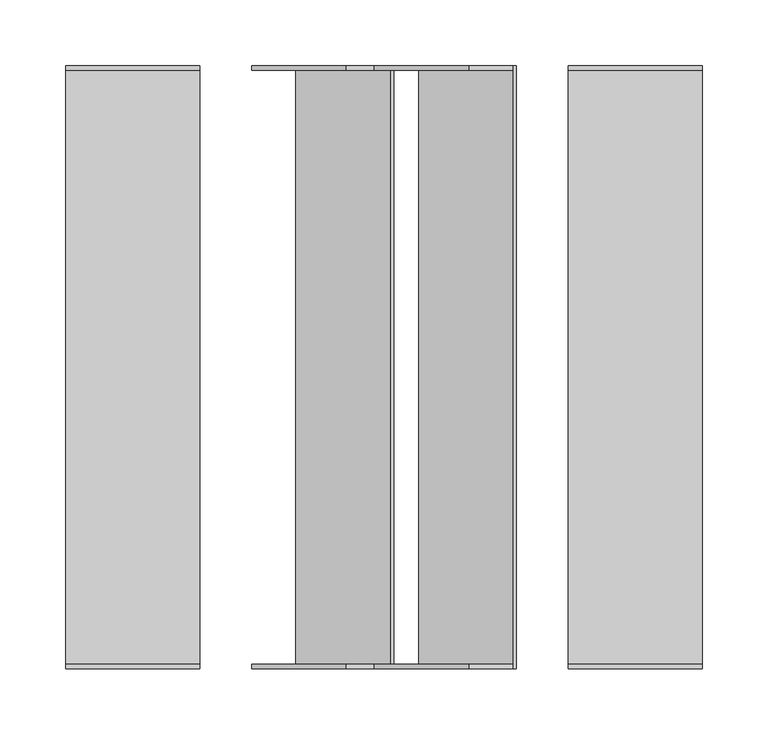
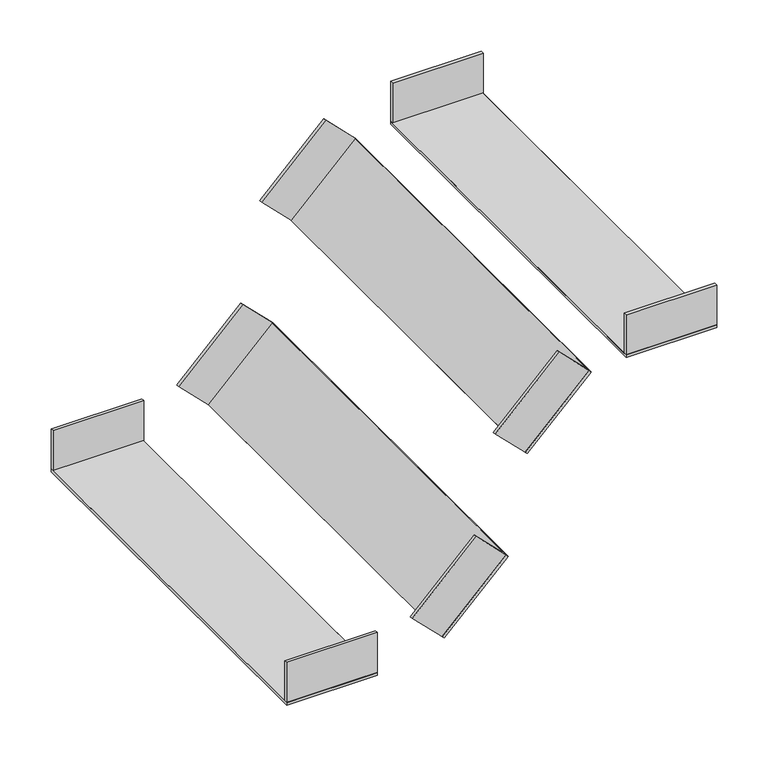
"""IFC4 building model written with IfcOpenShell, lengths in millimetres: cable carrier fitting geometry, Offset-Vertical-Cablofil-Wire_Mesh_Cable_Tray-Cablobend : Cablobend."""

from ifc_helpers import new_model, si_unit, frame, origin, place, context, project, spatial, polyline, outline, extrude, source, transform, mapped, element, save


def cable_carrier_fitting_cd092c5d(model_context):
    return source(origin(), model_context, "Body", "SweptSolid", [
        extrude(outline(polyline([(3.175, 0.0), (3.175, -457.2), (0.0, -457.2), (0.0, 0.0), (3.175, 0.0)])), frame((-10.648391, -228.6, 178.9517966), z_axis=(0.707106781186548, 0.0, 0.707106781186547), x_axis=(-0.707106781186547, 0.0, 0.707106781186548)), (0.0, 0.0, 1.0), 101.6),
        extrude(outline(polyline([(50.8, 0.0), (50.8, -3.175), (3.175, -3.175), (3.175, -454.025), (50.8, -454.025), (50.8, -457.2), (0.0, -457.2), (0.0, 0.0), (50.8, 0.0)])), frame((-10.648391, -228.6, 178.9517966), z_axis=(0.707106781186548, 0.0, 0.707106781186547), x_axis=(-0.707106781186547, 0.0, 0.707106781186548)), (0.0, 0.0, 1.0), 101.6),
        extrude(outline(polyline([(3.175, 0.0), (3.175, -457.2), (0.0, -457.2), (0.0, 0.0), (3.175, 0.0)])), frame((-103.7817244, -228.6, -7.3148701), z_axis=(0.707106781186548, 0.0, 0.707106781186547), x_axis=(-0.707106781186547, 0.0, 0.707106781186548)), (0.0, 0.0, 1.0), 101.6),
        extrude(outline(polyline([(50.8, 0.0), (50.8, -3.175), (3.175, -3.175), (3.175, -454.025), (50.8, -454.025), (50.8, -457.2), (0.0, -457.2), (0.0, 0.0), (50.8, 0.0)])), frame((-103.7817244, -228.6, -7.3148701), z_axis=(0.707106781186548, 0.0, 0.707106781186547), x_axis=(-0.707106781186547, 0.0, 0.707106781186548)), (0.0, 0.0, 1.0), 101.6),
        extrude(outline(polyline([(202.0454545, 228.6), (202.0454545, -228.6), (100.4454545, -228.6), (100.4454545, 228.6), (202.0454545, 228.6)])), frame((0.0, 0.0, 254.0), z_axis=(0.0, 0.0, 1.0), x_axis=(1.0, 0.0, 0.0)), (0.0, 0.0, 1.0), 3.175),
        extrude(outline(polyline([(-228.6, 304.8), (-225.425, 304.8), (-225.425, 257.175), (225.425, 257.175), (225.425, 304.8), (228.6, 304.8), (228.6, 254.0), (-228.6, 254.0), (-228.6, 304.8)])), frame((100.4454545, 0.0, 0.0), z_axis=(1.0, 0.0, 0.0), x_axis=(0.0, 1.0, 0.0)), (0.0, 0.0, 1.0), 101.6),
        extrude(outline(polyline([(-178.9545455, 228.6), (-178.9545455, -228.6), (-280.5545455, -228.6), (-280.5545455, 228.6), (-178.9545455, 228.6)])), frame((0.0, 0.0, -25.4), z_axis=(0.0, 0.0, 1.0), x_axis=(1.0, 0.0, 0.0)), (0.0, 0.0, 1.0), 3.175),
        extrude(outline(polyline([(-228.6, 25.4), (-225.425, 25.4), (-225.425, -22.225), (225.425, -22.225), (225.425, 25.4), (228.6, 25.4), (228.6, -25.4), (-228.6, -25.4), (-228.6, 25.4)])), frame((-280.5545455, 0.0, 0.0), z_axis=(1.0, 0.0, 0.0), x_axis=(0.0, 1.0, 0.0)), (0.0, 0.0, 1.0), 101.6),
    ])


if __name__ == "__main__":
    model = new_model("IFC4")
    model_context = context("Model", 3, world=origin())
    ifc_project = project(units=[si_unit("LENGTHUNIT", "METRE", prefix="MILLI")], contexts=[model_context])
    site = spatial("IfcSite", under=ifc_project)
    building = spatial("IfcBuilding", under=site)
    placement = place(None, origin())
    cable_carrier_fitting_shape = cable_carrier_fitting_cd092c5d(model_context)
    element("IfcCableCarrierFitting", 1, ObjectType="Offset-Vertical-Cablofil-Wire_Mesh_Cable_Tray-Cablobend : Cablobend", at=placement, inside=building, context=model_context, shape_type="MappedRepresentation", body=[
        mapped(cable_carrier_fitting_shape, transform((0.0, 0.0, 0.0), x_axis=(1.0, 0.0, 0.0), y_axis=(0.0, 1.0, 0.0), z_axis=(0.0, 0.0, 1.0))),
    ])
    save(model, "model.ifc")
